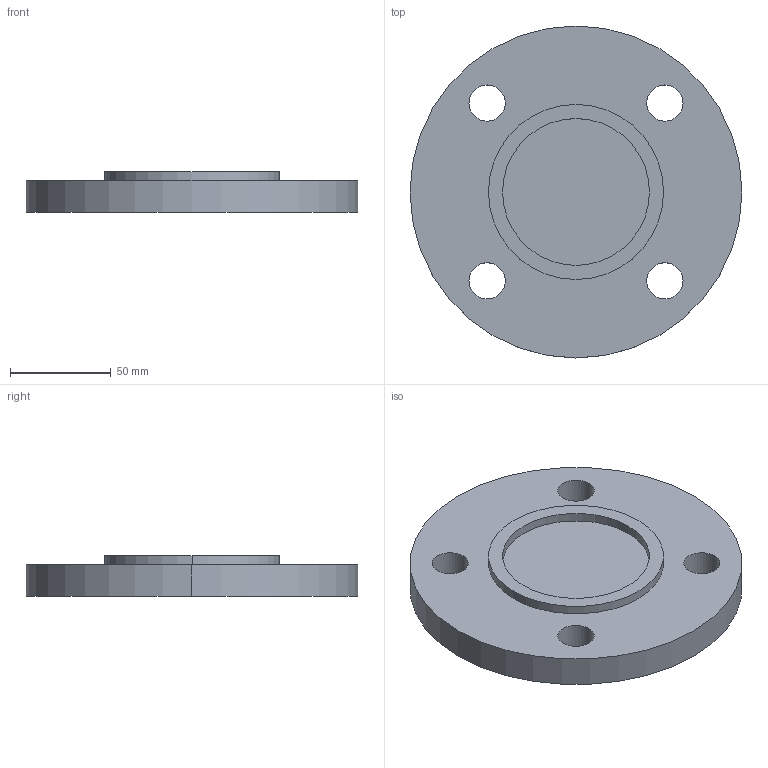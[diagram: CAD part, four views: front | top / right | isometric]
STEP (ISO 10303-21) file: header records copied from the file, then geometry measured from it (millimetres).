
FILE_DESCRIPTION (( 'STEP AP214' ), '1' );
FILE_NAME ('PN40 DN50 Type 05 - Type C Face.STEP', '2018-12-30T04:41:21', ( '' ), ( '' ), 'SwSTEP 2.0', 'SolidWorks 2019', '' );
FILE_SCHEMA (( 'AUTOMOTIVE_DESIGN' ));
Length unit declared in the file: millimetre
Products named in the file (1): PN40 DN50 Type 05 - Type C Face
Bounding box: 165 x 165 x 20 mm (x, y, z)
Volume: 323567.9 mm3; surface area: 54531.8 mm2
Topology: 1 solids, 1 shells, 18 faces, 42 edges, 28 vertices
Faces by surface type: cylinder 14, plane 4
Entity records: 584 total; most frequent: DIRECTION 108, CARTESIAN_POINT 89, ORIENTED_EDGE 84, AXIS2_PLACEMENT_3D 47, EDGE_CURVE 42, VERTEX_POINT 28, CIRCLE 28, EDGE_LOOP 28
